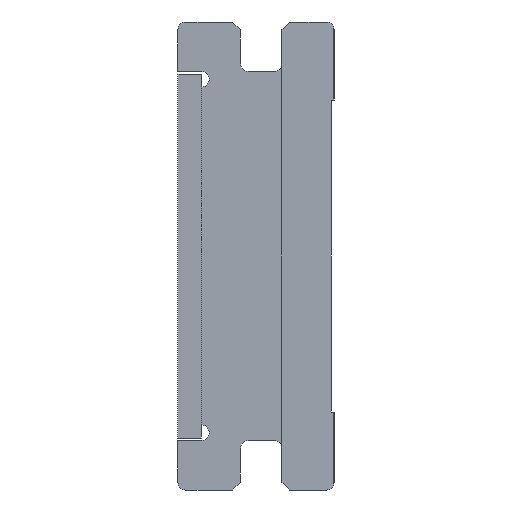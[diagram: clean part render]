
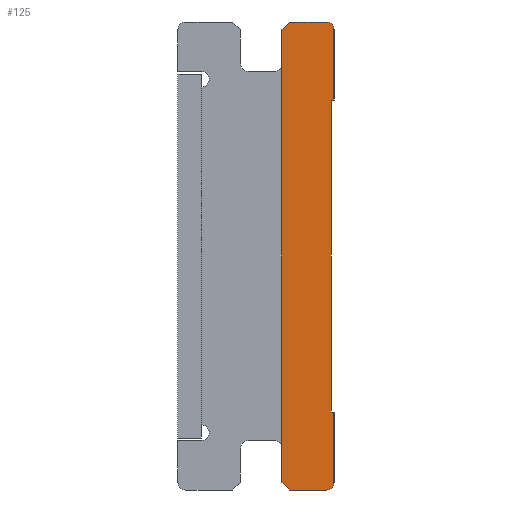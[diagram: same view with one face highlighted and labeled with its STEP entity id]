
A CAD part, left-side view. The second image highlights one B-rep face of the part: STEP entity #125.
In plain terms, the highlighted planar face has unit normal (-1, 0, 0).
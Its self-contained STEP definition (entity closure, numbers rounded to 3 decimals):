
#24 = PLANE ( 'NONE',  #646 ) ;
#43 = CIRCLE ( 'NONE', #1554, 0.3 ) ;
#54 = DIRECTION ( 'NONE',  ( 0., -0.707, 0.707 ) ) ;
#68 = CARTESIAN_POINT ( 'NONE',  ( 0., 0.3, -17.7 ) ) ;
#106 = ORIENTED_EDGE ( 'NONE', *, *, #645, .F. ) ;
#112 = VECTOR ( 'NONE', #1121, 1000. ) ;
#125 = ADVANCED_FACE ( 'NONE', ( #1913 ), #24, .F. ) ;
#145 = VERTEX_POINT ( 'NONE', #1733 ) ;
#151 = DIRECTION ( 'NONE',  ( 0., 0., -1. ) ) ;
#160 = CARTESIAN_POINT ( 'NONE',  ( 0., 0.1, -15. ) ) ;
#174 = ORIENTED_EDGE ( 'NONE', *, *, #378, .F. ) ;
#181 = CARTESIAN_POINT ( 'NONE',  ( 0., 0.3, 0. ) ) ;
#182 = ORIENTED_EDGE ( 'NONE', *, *, #1415, .F. ) ;
#325 = DIRECTION ( 'NONE',  ( 0., 0., 1. ) ) ;
#326 = LINE ( 'NONE', #2196, #1389 ) ;
#341 = EDGE_CURVE ( 'NONE', #411, #145, #1136, .T. ) ;
#346 = DIRECTION ( 'NONE',  ( 0., 0., 1. ) ) ;
#373 = CARTESIAN_POINT ( 'NONE',  ( 0., 0.3, 0. ) ) ;
#378 = EDGE_CURVE ( 'NONE', #1740, #1039, #1874, .T. ) ;
#411 = VERTEX_POINT ( 'NONE', #537 ) ;
#427 = EDGE_CURVE ( 'NONE', #1039, #1057, #43, .T. ) ;
#486 = CARTESIAN_POINT ( 'NONE',  ( 0., 0.3, -0.3 ) ) ;
#494 = ORIENTED_EDGE ( 'NONE', *, *, #542, .F. ) ;
#518 = CARTESIAN_POINT ( 'NONE',  ( 0., 0., -15. ) ) ;
#529 = VECTOR ( 'NONE', #942, 1000. ) ;
#537 = CARTESIAN_POINT ( 'NONE',  ( 0., 2., -17.7 ) ) ;
#542 = EDGE_CURVE ( 'NONE', #145, #1740, #1578, .T. ) ;
#597 = VERTEX_POINT ( 'NONE', #1932 ) ;
#606 = DIRECTION ( 'NONE',  ( 1., 0., 0. ) ) ;
#637 = VECTOR ( 'NONE', #54, 1000. ) ;
#641 = CARTESIAN_POINT ( 'NONE',  ( 0., 0.3, -18. ) ) ;
#645 = EDGE_CURVE ( 'NONE', #1309, #597, #2214, .T. ) ;
#646 = AXIS2_PLACEMENT_3D ( 'NONE', #2156, #606, #849 ) ;
#660 = CARTESIAN_POINT ( 'NONE',  ( 0., 0., -17.7 ) ) ;
#725 = VECTOR ( 'NONE', #346, 1000. ) ;
#742 = CARTESIAN_POINT ( 'NONE',  ( 0., 2., -17.7 ) ) ;
#743 = ORIENTED_EDGE ( 'NONE', *, *, #427, .F. ) ;
#752 = VECTOR ( 'NONE', #1158, 1000. ) ;
#765 = CARTESIAN_POINT ( 'NONE',  ( 0., 0., -15. ) ) ;
#768 = CARTESIAN_POINT ( 'NONE',  ( 0., 0., -0.3 ) ) ;
#800 = DIRECTION ( 'NONE',  ( 0., 1., 0. ) ) ;
#833 = DIRECTION ( 'NONE',  ( 1., 0., 0. ) ) ;
#835 = EDGE_CURVE ( 'NONE', #2059, #2397, #2088, .T. ) ;
#849 = DIRECTION ( 'NONE',  ( 0., 1., 0. ) ) ;
#912 = LINE ( 'NONE', #1122, #1145 ) ;
#942 = DIRECTION ( 'NONE',  ( 0., 1., 0. ) ) ;
#946 = EDGE_CURVE ( 'NONE', #2327, #1855, #1393, .T. ) ;
#954 = DIRECTION ( 'NONE',  ( 0., -1., 0. ) ) ;
#1009 = ORIENTED_EDGE ( 'NONE', *, *, #341, .F. ) ;
#1039 = VERTEX_POINT ( 'NONE', #373 ) ;
#1043 = DIRECTION ( 'NONE',  ( 0., -1., 0. ) ) ;
#1054 = EDGE_CURVE ( 'NONE', #2397, #411, #1149, .T. ) ;
#1057 = VERTEX_POINT ( 'NONE', #768 ) ;
#1121 = DIRECTION ( 'NONE',  ( 0., 0.707, 0.707 ) ) ;
#1122 = CARTESIAN_POINT ( 'NONE',  ( 0., 0., -0.3 ) ) ;
#1136 = LINE ( 'NONE', #742, #725 ) ;
#1145 = VECTOR ( 'NONE', #151, 1000. ) ;
#1149 = LINE ( 'NONE', #1909, #112 ) ;
#1155 = ORIENTED_EDGE ( 'NONE', *, *, #1054, .F. ) ;
#1158 = DIRECTION ( 'NONE',  ( 0., 0., -1. ) ) ;
#1196 = CARTESIAN_POINT ( 'NONE',  ( 0., 0., -3. ) ) ;
#1207 = EDGE_CURVE ( 'NONE', #1436, #2059, #1307, .T. ) ;
#1246 = ORIENTED_EDGE ( 'NONE', *, *, #2115, .F. ) ;
#1247 = DIRECTION ( 'NONE',  ( 1., 0., 0. ) ) ;
#1269 = EDGE_CURVE ( 'NONE', #597, #1436, #1905, .T. ) ;
#1307 = CIRCLE ( 'NONE', #1581, 0.3 ) ;
#1309 = VERTEX_POINT ( 'NONE', #160 ) ;
#1350 = CARTESIAN_POINT ( 'NONE',  ( 0., 1.7, 0. ) ) ;
#1354 = ORIENTED_EDGE ( 'NONE', *, *, #1207, .F. ) ;
#1389 = VECTOR ( 'NONE', #2366, 1000. ) ;
#1393 = LINE ( 'NONE', #1196, #2116 ) ;
#1415 = EDGE_CURVE ( 'NONE', #1855, #1309, #326, .T. ) ;
#1436 = VERTEX_POINT ( 'NONE', #660 ) ;
#1511 = CARTESIAN_POINT ( 'NONE',  ( 0., 0.3, -18. ) ) ;
#1529 = ORIENTED_EDGE ( 'NONE', *, *, #835, .F. ) ;
#1554 = AXIS2_PLACEMENT_3D ( 'NONE', #486, #1247, #325 ) ;
#1578 = LINE ( 'NONE', #1350, #637 ) ;
#1580 = DIRECTION ( 'NONE',  ( 0., 0., -1. ) ) ;
#1581 = AXIS2_PLACEMENT_3D ( 'NONE', #68, #833, #1580 ) ;
#1627 = VECTOR ( 'NONE', #954, 1000. ) ;
#1689 = ORIENTED_EDGE ( 'NONE', *, *, #946, .F. ) ;
#1724 = CARTESIAN_POINT ( 'NONE',  ( 0., 1.7, -18. ) ) ;
#1733 = CARTESIAN_POINT ( 'NONE',  ( 0., 2., -0.3 ) ) ;
#1740 = VERTEX_POINT ( 'NONE', #2121 ) ;
#1846 = CARTESIAN_POINT ( 'NONE',  ( 0., 0., -3. ) ) ;
#1855 = VERTEX_POINT ( 'NONE', #2279 ) ;
#1874 = LINE ( 'NONE', #181, #1627 ) ;
#1905 = LINE ( 'NONE', #765, #752 ) ;
#1909 = CARTESIAN_POINT ( 'NONE',  ( 0., 1.7, -18. ) ) ;
#1913 = FACE_OUTER_BOUND ( 'NONE', #2074, .T. ) ;
#1932 = CARTESIAN_POINT ( 'NONE',  ( 0., 0., -15. ) ) ;
#2059 = VERTEX_POINT ( 'NONE', #641 ) ;
#2074 = EDGE_LOOP ( 'NONE', ( #494, #1009, #1155, #1529, #1354, #2376, #106, #182, #1689, #1246, #743, #174 ) ) ;
#2088 = LINE ( 'NONE', #1511, #529 ) ;
#2115 = EDGE_CURVE ( 'NONE', #1057, #2327, #912, .T. ) ;
#2116 = VECTOR ( 'NONE', #800, 1000. ) ;
#2121 = CARTESIAN_POINT ( 'NONE',  ( 0., 1.7, 0. ) ) ;
#2156 = CARTESIAN_POINT ( 'NONE',  ( 0., 5.1, -15.8 ) ) ;
#2190 = VECTOR ( 'NONE', #1043, 1000. ) ;
#2196 = CARTESIAN_POINT ( 'NONE',  ( 0., 0.1, -3. ) ) ;
#2214 = LINE ( 'NONE', #518, #2190 ) ;
#2279 = CARTESIAN_POINT ( 'NONE',  ( 0., 0.1, -3. ) ) ;
#2327 = VERTEX_POINT ( 'NONE', #1846 ) ;
#2366 = DIRECTION ( 'NONE',  ( 0., 0., -1. ) ) ;
#2376 = ORIENTED_EDGE ( 'NONE', *, *, #1269, .F. ) ;
#2397 = VERTEX_POINT ( 'NONE', #1724 ) ;
